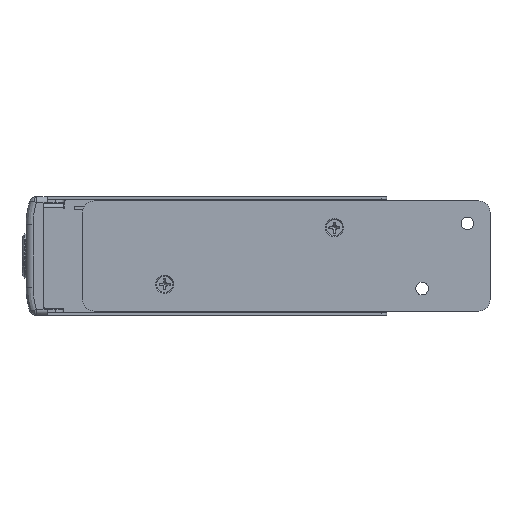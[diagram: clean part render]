
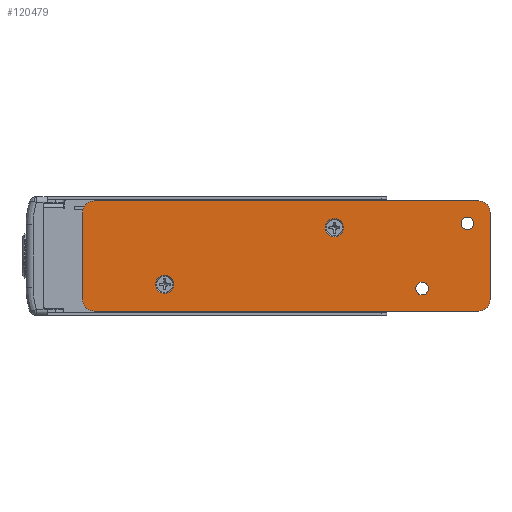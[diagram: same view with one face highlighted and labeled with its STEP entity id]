
A CAD part, front view. The second image highlights one B-rep face of the part: STEP entity #120479.
In plain terms, the highlighted planar face has unit normal (0, -1, 0).
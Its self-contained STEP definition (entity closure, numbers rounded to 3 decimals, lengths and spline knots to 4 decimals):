
#493 = CARTESIAN_POINT ( 'NONE',  ( -6.6875, -0.281, -0.9688 ) ) ;
#1606 = AXIS2_PLACEMENT_3D ( 'NONE', #16009, #134715, #5394 ) ;
#2124 = DIRECTION ( 'NONE',  ( 0., -1., 0. ) ) ;
#5394 = DIRECTION ( 'NONE',  ( -1., 0., 0. ) ) ;
#5550 = CIRCLE ( 'NONE', #84556, 0.2 ) ;
#6631 = ORIENTED_EDGE ( 'NONE', *, *, #33823, .F. ) ;
#8514 = AXIS2_PLACEMENT_3D ( 'NONE', #56654, #10762, #65831 ) ;
#8889 = VERTEX_POINT ( 'NONE', #52007 ) ;
#8910 = VECTOR ( 'NONE', #53829, 39.3701 ) ;
#10762 = DIRECTION ( 'NONE',  ( 0., -1., 0. ) ) ;
#14251 = VERTEX_POINT ( 'NONE', #53133 ) ;
#14312 = CARTESIAN_POINT ( 'NONE',  ( 2.0625, -0.281, -0.9688 ) ) ;
#14946 = FACE_BOUND ( 'NONE', #120701, .T. ) ;
#16009 = CARTESIAN_POINT ( 'NONE',  ( -1.125, -0.281, 0.625 ) ) ;
#16170 = CARTESIAN_POINT ( 'NONE',  ( 0.9531, -0.281, -0.7188 ) ) ;
#16601 = EDGE_CURVE ( 'NONE', #105373, #105373, #82848, .T. ) ;
#16745 = EDGE_LOOP ( 'NONE', ( #6631 ) ) ;
#17320 = EDGE_CURVE ( 'NONE', #105662, #81627, #103110, .T. ) ;
#18987 = DIRECTION ( 'NONE',  ( 0., 1., 0. ) ) ;
#19152 = ORIENTED_EDGE ( 'NONE', *, *, #33747, .F. ) ;
#21526 = ORIENTED_EDGE ( 'NONE', *, *, #16601, .F. ) ;
#22625 = LINE ( 'NONE', #129348, #52877 ) ;
#22754 = FACE_OUTER_BOUND ( 'NONE', #59453, .T. ) ;
#25343 = CARTESIAN_POINT ( 'NONE',  ( -6.4375, -0.281, -1.2188 ) ) ;
#25579 = DIRECTION ( 'NONE',  ( -1., 0., 0. ) ) ;
#25790 = CARTESIAN_POINT ( 'NONE',  ( 2.3125, -0.281, 0.9687 ) ) ;
#27067 = ORIENTED_EDGE ( 'NONE', *, *, #131821, .T. ) ;
#27381 = DIRECTION ( 'NONE',  ( 1., 0., 0. ) ) ;
#27714 = ORIENTED_EDGE ( 'NONE', *, *, #84201, .T. ) ;
#28175 = CARTESIAN_POINT ( 'NONE',  ( -6.6875, -0.281, -1.2188 ) ) ;
#32695 = DIRECTION ( 'NONE',  ( 0., -1., 0. ) ) ;
#33747 = EDGE_CURVE ( 'NONE', #107874, #74517, #22625, .T. ) ;
#33823 = EDGE_CURVE ( 'NONE', #37380, #37380, #5550, .T. ) ;
#33918 = CARTESIAN_POINT ( 'NONE',  ( -4.875, -0.281, -0.625 ) ) ;
#34615 = DIRECTION ( 'NONE',  ( -1., 0., 0. ) ) ;
#37105 = ORIENTED_EDGE ( 'NONE', *, *, #63366, .T. ) ;
#37380 = VERTEX_POINT ( 'NONE', #134883 ) ;
#37768 = AXIS2_PLACEMENT_3D ( 'NONE', #120205, #53826, #42534 ) ;
#37965 = AXIS2_PLACEMENT_3D ( 'NONE', #14312, #122438, #25579 ) ;
#38851 = CARTESIAN_POINT ( 'NONE',  ( -6.4375, -0.281, -0.9688 ) ) ;
#41338 = EDGE_CURVE ( 'NONE', #123602, #123602, #118490, .T. ) ;
#42534 = DIRECTION ( 'NONE',  ( 1., 0., 0. ) ) ;
#46522 = CARTESIAN_POINT ( 'NONE',  ( -6.6875, -0.281, 1.2187 ) ) ;
#47462 = FACE_BOUND ( 'NONE', #16745, .T. ) ;
#47536 = EDGE_CURVE ( 'NONE', #8889, #8889, #125765, .T. ) ;
#49725 = ORIENTED_EDGE ( 'NONE', *, *, #118068, .T. ) ;
#49866 = CARTESIAN_POINT ( 'NONE',  ( 2.3125, -0.281, -0.9688 ) ) ;
#50770 = AXIS2_PLACEMENT_3D ( 'NONE', #38851, #134240, #69259 ) ;
#50797 = DIRECTION ( 'NONE',  ( -1., 0., 0. ) ) ;
#51527 = CIRCLE ( 'NONE', #37965, 0.25 ) ;
#51915 = ORIENTED_EDGE ( 'NONE', *, *, #41338, .T. ) ;
#52007 = CARTESIAN_POINT ( 'NONE',  ( 1.9531, -0.281, 0.7187 ) ) ;
#52594 = CARTESIAN_POINT ( 'NONE',  ( -6.4375, -0.281, 1.2187 ) ) ;
#52877 = VECTOR ( 'NONE', #108147, 39.3701 ) ;
#53133 = CARTESIAN_POINT ( 'NONE',  ( 2.0625, -0.281, 1.2187 ) ) ;
#53826 = DIRECTION ( 'NONE',  ( 0., 1., 0. ) ) ;
#53829 = DIRECTION ( 'NONE',  ( 0., 0., -1. ) ) ;
#54920 = ORIENTED_EDGE ( 'NONE', *, *, #86546, .F. ) ;
#55251 = DIRECTION ( 'NONE',  ( 0., -1., 0. ) ) ;
#55978 = CARTESIAN_POINT ( 'NONE',  ( 2.3125, -0.281, -1.2188 ) ) ;
#56654 = CARTESIAN_POINT ( 'NONE',  ( -6.4375, -0.281, 0.9687 ) ) ;
#58328 = VERTEX_POINT ( 'NONE', #25790 ) ;
#59453 = EDGE_LOOP ( 'NONE', ( #126304, #27714, #19152, #37105, #71243, #27067, #54920, #49725 ) ) ;
#63366 = EDGE_CURVE ( 'NONE', #107874, #81627, #80116, .T. ) ;
#64323 = AXIS2_PLACEMENT_3D ( 'NONE', #106596, #18987, #95301 ) ;
#65831 = DIRECTION ( 'NONE',  ( -1., 0., 0. ) ) ;
#65849 = PLANE ( 'NONE',  #124820 ) ;
#66346 = EDGE_LOOP ( 'NONE', ( #51915 ) ) ;
#67271 = FACE_BOUND ( 'NONE', #130376, .T. ) ;
#69259 = DIRECTION ( 'NONE',  ( -1., 0., 0. ) ) ;
#71243 = ORIENTED_EDGE ( 'NONE', *, *, #17320, .F. ) ;
#74517 = VERTEX_POINT ( 'NONE', #110010 ) ;
#74793 = AXIS2_PLACEMENT_3D ( 'NONE', #120327, #32695, #110436 ) ;
#78699 = EDGE_CURVE ( 'NONE', #115287, #14251, #81118, .T. ) ;
#80116 = CIRCLE ( 'NONE', #50770, 0.25 ) ;
#81118 = LINE ( 'NONE', #46522, #82680 ) ;
#81627 = VERTEX_POINT ( 'NONE', #25343 ) ;
#82680 = VECTOR ( 'NONE', #27381, 39.3701 ) ;
#82848 = CIRCLE ( 'NONE', #1606, 0.2 ) ;
#84201 = EDGE_CURVE ( 'NONE', #115287, #74517, #105579, .T. ) ;
#84556 = AXIS2_PLACEMENT_3D ( 'NONE', #33918, #2124, #34615 ) ;
#86546 = EDGE_CURVE ( 'NONE', #58328, #125639, #107531, .T. ) ;
#90347 = VECTOR ( 'NONE', #50797, 39.3701 ) ;
#95301 = DIRECTION ( 'NONE',  ( 1., 0., 0. ) ) ;
#103074 = CARTESIAN_POINT ( 'NONE',  ( 2.0625, -0.281, -1.2188 ) ) ;
#103110 = LINE ( 'NONE', #28175, #90347 ) ;
#105373 = VERTEX_POINT ( 'NONE', #114564 ) ;
#105579 = CIRCLE ( 'NONE', #8514, 0.25 ) ;
#105662 = VERTEX_POINT ( 'NONE', #103074 ) ;
#106596 = CARTESIAN_POINT ( 'NONE',  ( 0.8125, -0.281, -0.7188 ) ) ;
#107531 = LINE ( 'NONE', #117449, #8910 ) ;
#107874 = VERTEX_POINT ( 'NONE', #493 ) ;
#108147 = DIRECTION ( 'NONE',  ( 0., 0., 1. ) ) ;
#110010 = CARTESIAN_POINT ( 'NONE',  ( -6.6875, -0.281, 0.9687 ) ) ;
#110383 = DIRECTION ( 'NONE',  ( -1., 0., 0. ) ) ;
#110436 = DIRECTION ( 'NONE',  ( -1., 0., 0. ) ) ;
#114564 = CARTESIAN_POINT ( 'NONE',  ( -1.325, -0.281, 0.625 ) ) ;
#115287 = VERTEX_POINT ( 'NONE', #52594 ) ;
#117449 = CARTESIAN_POINT ( 'NONE',  ( 2.3125, -0.281, 1.2187 ) ) ;
#118068 = EDGE_CURVE ( 'NONE', #58328, #14251, #131280, .T. ) ;
#118490 = CIRCLE ( 'NONE', #64323, 0.1406 ) ;
#120205 = CARTESIAN_POINT ( 'NONE',  ( 1.8125, -0.281, 0.7187 ) ) ;
#120327 = CARTESIAN_POINT ( 'NONE',  ( 2.0625, -0.281, 0.9687 ) ) ;
#120479 = ADVANCED_FACE ( 'NONE', ( #14946, #130878, #47462, #67271, #22754 ), #65849, .T. ) ;
#120701 = EDGE_LOOP ( 'NONE', ( #130191 ) ) ;
#122438 = DIRECTION ( 'NONE',  ( 0., -1., 0. ) ) ;
#123602 = VERTEX_POINT ( 'NONE', #16170 ) ;
#124820 = AXIS2_PLACEMENT_3D ( 'NONE', #55978, #55251, #110383 ) ;
#125639 = VERTEX_POINT ( 'NONE', #49866 ) ;
#125765 = CIRCLE ( 'NONE', #37768, 0.1406 ) ;
#126304 = ORIENTED_EDGE ( 'NONE', *, *, #78699, .F. ) ;
#129348 = CARTESIAN_POINT ( 'NONE',  ( -6.6875, -0.281, 1.2187 ) ) ;
#130191 = ORIENTED_EDGE ( 'NONE', *, *, #47536, .T. ) ;
#130376 = EDGE_LOOP ( 'NONE', ( #21526 ) ) ;
#130878 = FACE_BOUND ( 'NONE', #66346, .T. ) ;
#131280 = CIRCLE ( 'NONE', #74793, 0.25 ) ;
#131821 = EDGE_CURVE ( 'NONE', #105662, #125639, #51527, .T. ) ;
#134240 = DIRECTION ( 'NONE',  ( 0., -1., 0. ) ) ;
#134715 = DIRECTION ( 'NONE',  ( 0., -1., 0. ) ) ;
#134883 = CARTESIAN_POINT ( 'NONE',  ( -5.075, -0.281, -0.625 ) ) ;
